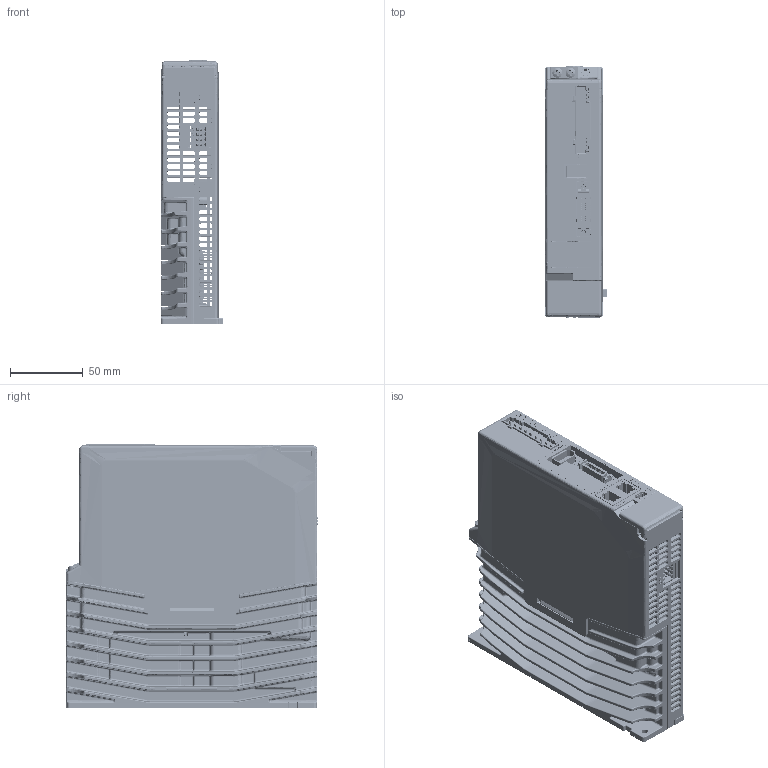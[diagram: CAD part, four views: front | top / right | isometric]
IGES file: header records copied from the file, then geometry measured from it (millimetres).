
Start section: SolidWorks IGES file using analytic representation for surfaces
Global section: file name: Z:\Products\Servo\08.2024\UNITRONICS\B5 & E5-S Drivers\200VAC ,Rated power:50W~400W EtherCAT\200VAC ,Rated power:50W~400W EtherCAT.IGS; native system: SolidWorks 2022; preprocessor: SolidWorks 2022; author: OfirZ; date: 240822.152313; units: millimetre
Bounding box: 43 x 172.3 x 181 mm (x, y, z)
Surface area: 286680.2 mm2 (no closed solid volume)
Topology: 0 solids, 0 shells, 8996 faces, 62868 edges, 62780 vertices
Faces by surface type: bspline 6878, revolution 2118
